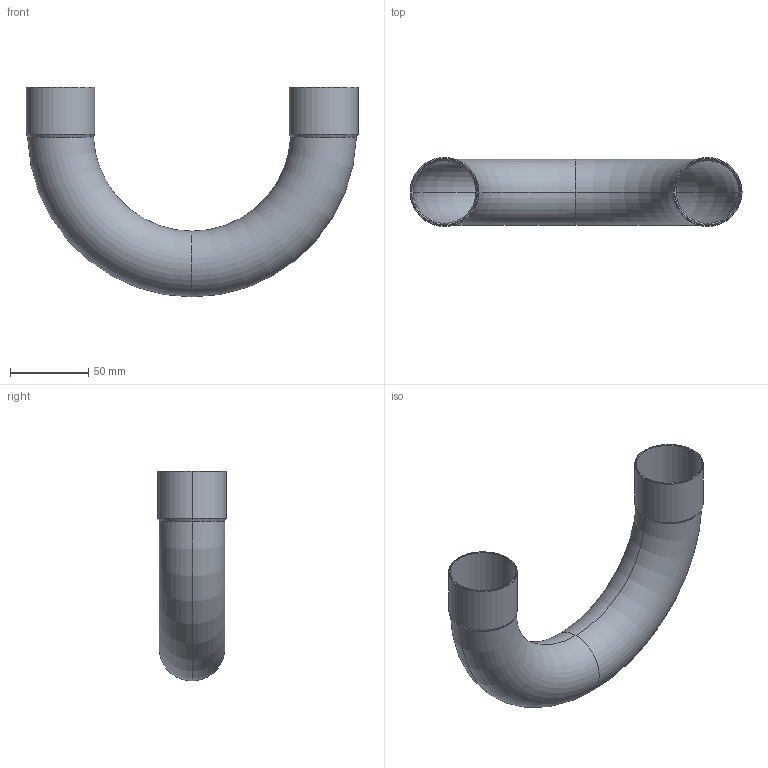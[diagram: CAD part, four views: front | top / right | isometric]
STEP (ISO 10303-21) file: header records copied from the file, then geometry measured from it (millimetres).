
FILE_DESCRIPTION((''),'2;1');
FILE_NAME('C:\sanha_work\5130\f\1506042.stp','2005-10-21T17:22:38',('Kris'),(''),'Autodesk Inventor 8','Autodesk Inventor 8','');
FILE_SCHEMA(('AUTOMOTIVE_DESIGN { 1 0 10303 214 1 1 1 1 }'));
Length unit declared in the file: millimetre
Products named in the file (1): 1506042
Bounding box: 212 x 44 x 134 mm (x, y, z)
Volume: 41910.6 mm3; surface area: 84048.5 mm2
Topology: 1 solids, 1 shells, 34 faces, 68 edges, 36 vertices
Faces by surface type: cone 12, bspline 9, torus 8, cylinder 4, plane 1
Entity records: 1131 total; most frequent: CARTESIAN_POINT 430, DIRECTION 148, ORIENTED_EDGE 136, EDGE_CURVE 68, AXIS2_PLACEMENT_3D 62, VERTEX_POINT 36, CIRCLE 36, EDGE_LOOP 36
